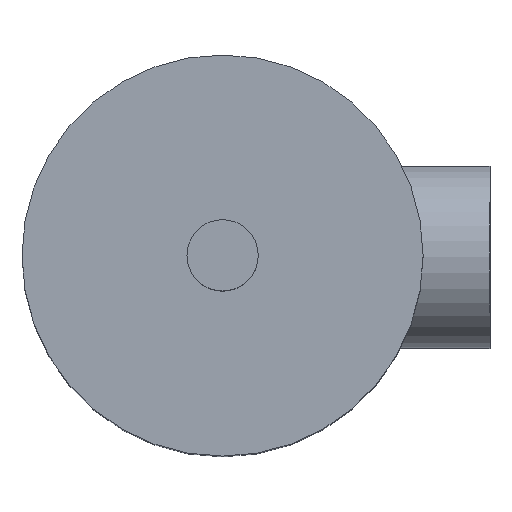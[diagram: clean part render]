
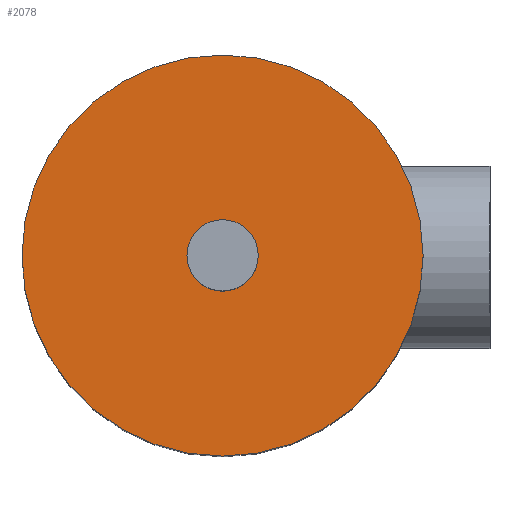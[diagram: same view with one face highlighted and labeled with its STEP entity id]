
A CAD part, top view. The second image highlights one B-rep face of the part: STEP entity #2078.
In plain terms, the highlighted planar face has unit normal (0, 0, 1).
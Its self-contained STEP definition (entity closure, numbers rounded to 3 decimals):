
#1994 = CYLINDRICAL_SURFACE('',#1995,45.);
#1995 = AXIS2_PLACEMENT_3D('',#1996,#1997,#1998);
#1996 = CARTESIAN_POINT('',(0.,0.,132.5));
#1997 = DIRECTION('',(0.,0.,1.));
#1998 = DIRECTION('',(1.,0.,0.));
#2027 = EDGE_CURVE('',#2028,#2028,#2030,.T.);
#2028 = VERTEX_POINT('',#2029);
#2029 = CARTESIAN_POINT('',(45.,0.,238.5));
#2030 = SURFACE_CURVE('',#2031,(#2036,#2043),.PCURVE_S1.);
#2031 = CIRCLE('',#2032,45.);
#2032 = AXIS2_PLACEMENT_3D('',#2033,#2034,#2035);
#2033 = CARTESIAN_POINT('',(0.,0.,238.5));
#2034 = DIRECTION('',(0.,0.,1.));
#2035 = DIRECTION('',(1.,0.,0.));
#2036 = PCURVE('',#1994,#2037);
#2037 = DEFINITIONAL_REPRESENTATION('',(#2038),#2042);
#2038 = LINE('',#2039,#2040);
#2039 = CARTESIAN_POINT('',(0.,106.));
#2040 = VECTOR('',#2041,1.);
#2041 = DIRECTION('',(1.,0.));
#2042 = ( GEOMETRIC_REPRESENTATION_CONTEXT(2) 
PARAMETRIC_REPRESENTATION_CONTEXT() REPRESENTATION_CONTEXT('2D SPACE',''
  ) );
#2043 = PCURVE('',#2044,#2049);
#2044 = PLANE('',#2045);
#2045 = AXIS2_PLACEMENT_3D('',#2046,#2047,#2048);
#2046 = CARTESIAN_POINT('',(0.,0.,238.5));
#2047 = DIRECTION('',(0.,0.,1.));
#2048 = DIRECTION('',(1.,0.,0.));
#2049 = DEFINITIONAL_REPRESENTATION('',(#2050),#2054);
#2050 = CIRCLE('',#2051,45.);
#2051 = AXIS2_PLACEMENT_2D('',#2052,#2053);
#2052 = CARTESIAN_POINT('',(0.,0.));
#2053 = DIRECTION('',(1.,0.));
#2054 = ( GEOMETRIC_REPRESENTATION_CONTEXT(2) 
PARAMETRIC_REPRESENTATION_CONTEXT() REPRESENTATION_CONTEXT('2D SPACE',''
  ) );
#2078 = ADVANCED_FACE('',(#2079,#2082),#2044,.T.);
#2079 = FACE_BOUND('',#2080,.T.);
#2080 = EDGE_LOOP('',(#2081));
#2081 = ORIENTED_EDGE('',*,*,#2027,.T.);
#2082 = FACE_BOUND('',#2083,.T.);
#2083 = EDGE_LOOP('',(#2084));
#2084 = ORIENTED_EDGE('',*,*,#2085,.F.);
#2085 = EDGE_CURVE('',#2086,#2086,#2088,.T.);
#2086 = VERTEX_POINT('',#2087);
#2087 = CARTESIAN_POINT('',(8.,0.,238.5));
#2088 = SURFACE_CURVE('',#2089,(#2094,#2101),.PCURVE_S1.);
#2089 = CIRCLE('',#2090,8.);
#2090 = AXIS2_PLACEMENT_3D('',#2091,#2092,#2093);
#2091 = CARTESIAN_POINT('',(0.,0.,238.5));
#2092 = DIRECTION('',(0.,0.,1.));
#2093 = DIRECTION('',(1.,0.,-0.));
#2094 = PCURVE('',#2044,#2095);
#2095 = DEFINITIONAL_REPRESENTATION('',(#2096),#2100);
#2096 = CIRCLE('',#2097,8.);
#2097 = AXIS2_PLACEMENT_2D('',#2098,#2099);
#2098 = CARTESIAN_POINT('',(0.,0.));
#2099 = DIRECTION('',(1.,0.));
#2100 = ( GEOMETRIC_REPRESENTATION_CONTEXT(2) 
PARAMETRIC_REPRESENTATION_CONTEXT() REPRESENTATION_CONTEXT('2D SPACE',''
  ) );
#2101 = PCURVE('',#2102,#2107);
#2102 = CYLINDRICAL_SURFACE('',#2103,8.);
#2103 = AXIS2_PLACEMENT_3D('',#2104,#2105,#2106);
#2104 = CARTESIAN_POINT('',(0.,0.,36.));
#2105 = DIRECTION('',(0.,0.,1.));
#2106 = DIRECTION('',(1.,0.,0.));
#2107 = DEFINITIONAL_REPRESENTATION('',(#2108),#2112);
#2108 = LINE('',#2109,#2110);
#2109 = CARTESIAN_POINT('',(0.,202.5));
#2110 = VECTOR('',#2111,1.);
#2111 = DIRECTION('',(1.,0.));
#2112 = ( GEOMETRIC_REPRESENTATION_CONTEXT(2) 
PARAMETRIC_REPRESENTATION_CONTEXT() REPRESENTATION_CONTEXT('2D SPACE',''
  ) );
